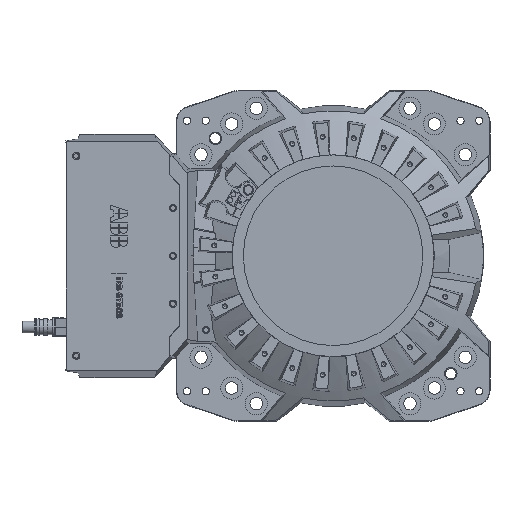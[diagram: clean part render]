
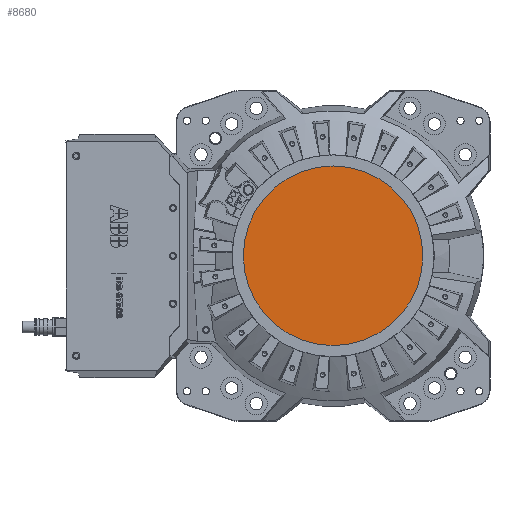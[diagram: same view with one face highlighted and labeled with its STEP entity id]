
A CAD part, top view. The second image highlights one B-rep face of the part: STEP entity #8680.
In plain terms, the highlighted planar face has unit normal (0, 0, 1).
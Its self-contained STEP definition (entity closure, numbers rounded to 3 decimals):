
#2880 = DIRECTION ( 'NONE',  ( 0., 0., 1. ) ) ;
#4263 = EDGE_CURVE ( 'NONE', #50702, #50702, #16962, .T. ) ;
#8680 = ADVANCED_FACE ( 'NONE', ( #35886 ), #52626, .T. ) ;
#9201 = DIRECTION ( 'NONE',  ( 1., 0., 0. ) ) ;
#9502 = AXIS2_PLACEMENT_3D ( 'NONE', #32304, #2880, #49079 ) ;
#16962 = CIRCLE ( 'NONE', #34475, 215.75 ) ;
#24878 = CARTESIAN_POINT ( 'NONE',  ( 0., 0., 342. ) ) ;
#25960 = CARTESIAN_POINT ( 'NONE',  ( 215.75, 0., 342. ) ) ;
#32304 = CARTESIAN_POINT ( 'NONE',  ( 0., 0., 342. ) ) ;
#34475 = AXIS2_PLACEMENT_3D ( 'NONE', #24878, #42447, #9201 ) ;
#35886 = FACE_OUTER_BOUND ( 'NONE', #49524, .T. ) ;
#42447 = DIRECTION ( 'NONE',  ( 0., 0., 1. ) ) ;
#49079 = DIRECTION ( 'NONE',  ( 1., 0., 0. ) ) ;
#49524 = EDGE_LOOP ( 'NONE', ( #50587 ) ) ;
#50587 = ORIENTED_EDGE ( 'NONE', *, *, #4263, .T. ) ;
#50702 = VERTEX_POINT ( 'NONE', #25960 ) ;
#52626 = PLANE ( 'NONE',  #9502 ) ;
